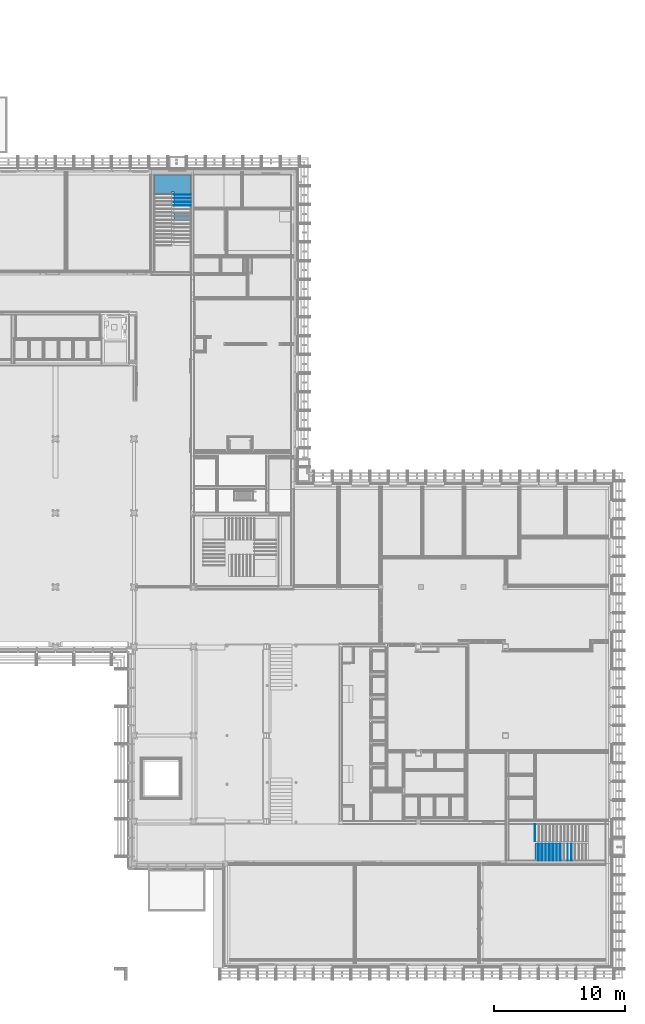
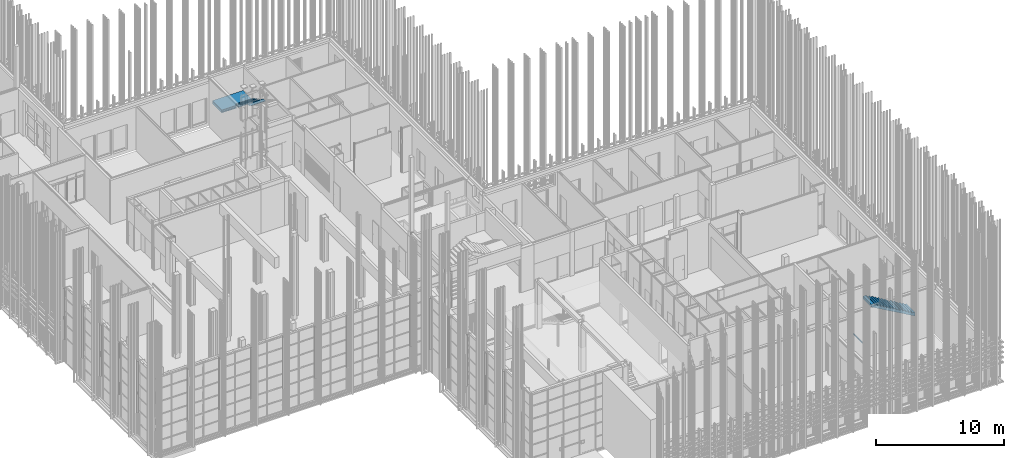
# One storey, part 86 of 260: 28 members, 2 elements without a shape of their own.
"""IFC2X3 building model written with IfcOpenShell, lengths in millimetres."""

from ifc_helpers import new_model, entity, si_unit, converted_unit, derived_unit, money_unit, direction, frame, origin_with_axes, place, context, subcontext, project, spatial, faceted_brep, material, type_object, element, aggregate, save


model = new_model("IFC2X3")

# Units and contexts
model_context = context("Model", 3, precision=0.01, world=origin_with_axes(), true_north=direction((0.0, 1.0)))
body_context = subcontext(model_context, "Body", "Model", "MODEL_VIEW")
ifc_project = project(units=[si_unit("LENGTHUNIT", "METRE", prefix="MILLI"), si_unit("AREAUNIT", "SQUARE_METRE"), si_unit("VOLUMEUNIT", "CUBIC_METRE"), converted_unit("PLANEANGLEUNIT", "DEGREE", entity("IfcPlaneAngleMeasure", 0.0174532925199), si_unit("PLANEANGLEUNIT", "RADIAN"), dimensions=[0, 0, 0, 0, 0, 0, 0]), money_unit("EUR"), converted_unit("TIMEUNIT", "Year", entity("IfcTimeMeasure", 31556926.0), si_unit("TIMEUNIT", "SECOND"), dimensions=[0, 0, 1, 0, 0, 0, 0]), si_unit("MASSUNIT", "GRAM", prefix="KILO"), si_unit("THERMODYNAMICTEMPERATUREUNIT", "DEGREE_CELSIUS"), si_unit("LUMINOUSINTENSITYUNIT", "LUMEN"), si_unit("ENERGYUNIT", "JOULE", prefix="MEGA"), derived_unit("THERMALCONDUCTANCEUNIT", [(si_unit("POWERUNIT", "WATT"), 1), (si_unit("LENGTHUNIT", "METRE"), -1), (si_unit("THERMODYNAMICTEMPERATUREUNIT", "KELVIN"), -1)]), derived_unit("SPECIFICHEATCAPACITYUNIT", [(si_unit("ENERGYUNIT", "JOULE"), 1), (si_unit("MASSUNIT", "GRAM", prefix="KILO"), -1), (si_unit("THERMODYNAMICTEMPERATUREUNIT", "KELVIN"), -1)]), derived_unit("MASSDENSITYUNIT", [(si_unit("MASSUNIT", "GRAM", prefix="KILO"), 1), (si_unit("VOLUMEUNIT", "CUBIC_METRE"), -1)])], contexts=[model_context])

# Site, building, storey
site_placement = place(None, origin_with_axes())
site = spatial("IfcSite", under=ifc_project, at=site_placement, Name="Kolde pst 67a", CompositionType="ELEMENT")
building_placement = place(site_placement, origin_with_axes())
building = spatial("IfcBuilding", under=site, at=building_placement, Name="Riigigümnaasium", CompositionType="ELEMENT")
storey_placement = place(building_placement, origin_with_axes())
storey = spatial("IfcBuildingStorey", under=building, at=storey_placement, Name="1. korrus", CompositionType="ELEMENT", Elevation=0.0)

# Stair, member
stair_1_placement = place(storey_placement, frame((79109.6162467, 9409.92811689, 0.0), z_axis=(0.0, 0.0, 1.0), x_axis=(0.9999999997, 2.4513383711e-05, 0.0)))
stair_1 = element("IfcStair", 1, at=stair_1_placement, inside=storey, Name="TREPP", ShapeType="NOTDEFINED")
ifc_material_1 = material(Name="_KANDETARIND - raudbetoon C25/30 vastavalt EK osale")
member_type_1 = type_object("IfcMemberType", Name="IfcMember", PredefinedType="USERDEFINED")
member_1_placement = place(stair_1_placement, origin_with_axes())
member_1 = element("IfcMember", 2, at=member_1_placement, type_object=member_type_1, material=ifc_material_1, Name="TT KONSTRUKTSIOON - 011", ObjectType="Stair Structure", context=body_context, shape_type="Brep", body=[
    faceted_brep([(3639.99552214, -200.048947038, 2102.45226859), (3639.9939894, -1500.04894698, 2102.45225897), (3546.66065143, -1500.04885122, 2155.32582622), (3546.66220115, -200.048831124, 2155.32582619), (3645.5417062, -200.048947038, 2099.31034483), (3645.54017346, -1500.04894698, 2099.31034483), (3645.54017346, -1500.04894698, 2349.31034483), (3639.9939894, -1500.04894698, 2349.31034483), (3609.9939894, -1500.04892538, 2349.31034483), (3609.9939894, -1500.04892538, 2507.93103448), (3329.9939894, -1500.04859102, 2507.93103448), (3329.9939894, -1500.04859102, 2666.55172414), (3049.9939894, -1500.04825666, 2666.55172414), (3049.9939894, -1500.04825666, 2825.17241379), (2769.9939894, -1500.0479223, 2825.17241379), (2769.9939894, -1500.0479223, 2983.79310345), (2489.9939894, -1500.04758795, 2983.79310345), (2489.9939894, -1500.04758795, 3142.4137931), (2209.9939894, -1500.04725359, 3142.4137931), (2209.9939894, -1500.04725359, 3301.03448276), (1929.9939894, -1500.04691923, 3301.03448276), (1929.9939894, -1500.04691923, 3459.65517241), (1649.9939894, -1500.04658487, 3459.65517241), (1649.9939894, -1500.04658487, 3618.27586207), (1369.9939894, -1500.04625052, 3618.27586207), (1369.9939894, -1500.04625052, 3776.89655172), (1089.99398941, -1500.04591616, 3776.89655172), (1089.99398941, -1500.04591616, 3935.51724138), (809.993989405, -1500.0455818, 3935.51724138), (809.993989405, -1500.0455818, 4094.13793103), (529.993989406, -1500.04524744, 4094.13793103), (529.993989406, -1500.04524744, 4252.75862069), (249.993989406, -1500.04491309, 4252.75862069), (249.993989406, -1500.04491309, 4411.37931034), (-30.0060105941, -1500.04457852, 4411.37931034), (-30.0060105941, -1500.04457852, 4570.0), (-280.006010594, -1500.04427999, 4570.0), (-280.006010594, -1500.04428211, 4323.14191987), (-186.672677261, -1500.04439357, 4270.26835664), (-93.3393439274, -1500.04450502, 4217.39479343), (-0.00601059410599, -1500.04461647, 4164.52123022), (93.3273227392, -1500.04472792, 4111.64766702), (186.660656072, -1500.04483937, 4058.7741038), (279.993989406, -1500.04495083, 4005.90054058), (373.327322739, -1500.04506228, 3953.02697737), (466.660656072, -1500.04517373, 3900.15341415), (559.993989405, -1500.04528518, 3847.27985093), (653.327322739, -1500.04539664, 3794.40628771), (746.660656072, -1500.04550809, 3741.53272449), (839.993989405, -1500.04561954, 3688.65916127), (933.327322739, -1500.04573099, 3635.78559806), (1026.66065607, -1500.04584245, 3582.91203484), (1119.99398941, -1500.0459539, 3530.03847162), (1213.32732274, -1500.04606535, 3477.1649084), (1306.66065607, -1500.0461768, 3424.29134518), (1399.9939894, -1500.04628826, 3371.41778196), (1493.32732274, -1500.04639971, 3318.54421874), (1586.66065607, -1500.04651116, 3265.67065553), (1679.9939894, -1500.04662261, 3212.79709231), (1773.32732274, -1500.04673407, 3159.92352909), (1866.66065607, -1500.04684552, 3107.04996587), (1959.9939894, -1500.04695697, 3054.17640265), (2053.32732274, -1500.04706842, 3001.30283943), (2146.66065607, -1500.04717988, 2948.42927622), (2239.9939894, -1500.04729133, 2895.555713), (2333.32732274, -1500.04740278, 2842.68214978), (2426.66065607, -1500.04751423, 2789.80858656), (2519.9939894, -1500.04762569, 2736.93502334), (2613.32732274, -1500.04773714, 2684.06146012), (2706.66065607, -1500.04784859, 2631.1878969), (2799.9939894, -1500.04796004, 2578.31433368), (2893.32732274, -1500.0480715, 2525.44077039), (2986.66065607, -1500.04818295, 2472.56720711), (3079.9939894, -1500.0482944, 2419.69364377), (3173.32732274, -1500.04840585, 2366.82008011), (3266.66065607, -1500.04851731, 2313.94651637), (3359.9939894, -1500.04862876, 2261.07295253), (3453.32732042, -1500.04874145, 2208.19938947), (3453.32887014, -200.048721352, 2208.19938944), (3609.99554151, -200.048920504, 2349.31034483), (3639.99552214, -200.048947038, 2349.31034483), (3645.5417062, -200.048947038, 2349.31034483), (3359.99553913, -200.04861158, 2261.07295256), (3266.66220659, -200.04851401, 2313.94651614), (3173.32887405, -200.048402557, 2366.82007966), (3079.99554151, -200.048291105, 2419.6936431), (2986.66220817, -200.048180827, 2472.56720665), (2893.32887484, -200.048069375, 2525.44077012), (2799.99554151, -200.047957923, 2578.31433355), (2706.66220817, -200.04784647, 2631.18789685), (2613.32887484, -200.047735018, 2684.0614601), (2519.99554151, -200.047623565, 2736.93502334), (2426.66220817, -200.047512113, 2789.80858656), (2333.32887484, -200.04740066, 2842.68214978), (2239.99554151, -200.047289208, 2895.555713), (2146.66220817, -200.047177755, 2948.42927622), (2053.32887484, -200.047066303, 3001.30283943), (1959.99554151, -200.04695485, 3054.17640265), (1866.66220817, -200.046843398, 3107.04996587), (1773.32887484, -200.046731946, 3159.92352909), (1679.99554151, -200.046611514, 3212.79709231), (1586.66220817, -200.046500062, 3265.67065553), (1493.32887484, -200.04638861, 3318.54421874), (1399.99554151, -200.046277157, 3371.41778196), (1306.66220817, -200.046167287, 3424.29134518), (1213.32887484, -200.046055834, 3477.1649084), (1119.99554151, -200.045944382, 3530.03847162), (1026.66220817, -200.045834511, 3582.91203484), (933.328874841, -200.045723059, 3635.78559806), (839.995541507, -200.045611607, 3688.65916127), (746.662208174, -200.045501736, 3741.53272449), (653.328874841, -200.045390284, 3794.40628771), (559.995541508, -200.045278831, 3847.27985093), (466.662208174, -200.045168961, 3900.15341415), (373.328874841, -200.045057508, 3953.02697736), (279.995541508, -200.044946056, 4005.90054058), (186.662208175, -200.044835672, 4058.7741038), (93.3288748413, -200.044724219, 4111.64766702), (-0.00445849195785, -200.044612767, 4164.52123024), (-93.3377917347, -200.044502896, 4217.39479343), (-186.671124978, -200.044391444, 4270.26835664), (-280.00445822, -200.044279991, 4323.14191985), (-280.00445822, -200.044279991, 4570.0), (-30.0044584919, -200.044578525, 4570.0), (-30.0044584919, -200.044578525, 4411.37931034), (249.995541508, -200.044912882, 4411.37931034), (249.995541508, -200.044912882, 4252.75862069), (529.995541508, -200.045247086, 4252.75862069), (529.995541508, -200.045247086, 4094.13793103), (809.995541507, -200.04558134, 4094.13793103), (809.995541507, -200.04558134, 3935.51724138), (1089.99554151, -200.045915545, 3935.51724138), (1089.99554151, -200.045915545, 3776.89655172), (1369.99554151, -200.046249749, 3776.89655172), (1369.99554151, -200.046249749, 3618.27586207), (1649.99554151, -200.046583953, 3618.27586207), (1649.99554151, -200.046583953, 3459.65517241), (1929.99554151, -200.046918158, 3459.65517241), (1929.99554151, -200.046918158, 3301.03448276), (2209.99554151, -200.047254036, 3301.03448276), (2209.99554151, -200.047254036, 3142.4137931), (2489.99554151, -200.04758824, 3142.4137931), (2489.99554151, -200.04758824, 2983.79310345), (2769.99554151, -200.047922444, 2983.79310345), (2769.99554151, -200.047922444, 2825.17241379), (3049.99554151, -200.048256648, 2825.17241379), (3049.99554151, -200.048256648, 2666.55172414), (3329.99554151, -200.048590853, 2666.55172414), (3329.99554151, -200.048590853, 2507.93103448), (3609.99554151, -200.048920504, 2507.93103448)], [[[0, 1, 2, 3]], [[1, 0, 4, 5]], [[2, 1, 5, 6, 7, 8, 9, 10, 11, 12, 13, 14, 15, 16, 17, 18, 19, 20, 21, 22, 23, 24, 25, 26, 27, 28, 29, 30, 31, 32, 33, 34, 35, 36, 37, 38, 39, 40, 41, 42, 43, 44, 45, 46, 47, 48, 49, 50, 51, 52, 53, 54, 55, 56, 57, 58, 59, 60, 61, 62, 63, 64, 65, 66, 67, 68, 69, 70, 71, 72, 73, 74, 75, 76, 77]], [[77, 78, 3, 2]], [[79, 80, 81, 4, 0, 3, 78, 82, 83, 84, 85, 86, 87, 88, 89, 90, 91, 92, 93, 94, 95, 96, 97, 98, 99, 100, 101, 102, 103, 104, 105, 106, 107, 108, 109, 110, 111, 112, 113, 114, 115, 116, 117, 118, 119, 120, 121, 122, 123, 124, 125, 126, 127, 128, 129, 130, 131, 132, 133, 134, 135, 136, 137, 138, 139, 140, 141, 142, 143, 144, 145, 146, 147, 148, 149]], [[6, 5, 4, 81]], [[8, 7, 6, 81, 80, 79]], [[79, 149, 9, 8]], [[149, 148, 10, 9]], [[148, 147, 11, 10]], [[147, 146, 12, 11]], [[146, 145, 13, 12]], [[145, 144, 14, 13]], [[144, 143, 15, 14]], [[143, 142, 16, 15]], [[142, 141, 17, 16]], [[141, 140, 18, 17]], [[140, 139, 19, 18]], [[139, 138, 20, 19]], [[138, 137, 21, 20]], [[137, 136, 22, 21]], [[136, 135, 23, 22]], [[135, 134, 24, 23]], [[134, 133, 25, 24]], [[133, 132, 26, 25]], [[132, 131, 27, 26]], [[131, 130, 28, 27]], [[130, 129, 29, 28]], [[129, 128, 30, 29]], [[128, 127, 31, 30]], [[127, 126, 32, 31]], [[126, 125, 33, 32]], [[125, 124, 34, 33]], [[124, 123, 35, 34]], [[122, 36, 35, 123]], [[37, 36, 122, 121]], [[37, 121, 120, 38]], [[38, 120, 119, 39]], [[39, 119, 118, 40]], [[40, 118, 117, 41]], [[41, 117, 116, 42]], [[42, 116, 115, 43]], [[43, 115, 114, 44]], [[44, 114, 113, 45]], [[45, 113, 112, 46]], [[46, 112, 111, 47]], [[47, 111, 110, 48]], [[48, 110, 109, 49]], [[49, 109, 108, 50]], [[50, 108, 107, 51]], [[51, 107, 106, 52]], [[52, 106, 105, 53]], [[53, 105, 104, 54]], [[54, 104, 103, 55]], [[55, 103, 102, 56]], [[56, 102, 101, 57]], [[57, 101, 100, 58]], [[58, 100, 99, 59]], [[59, 99, 98, 60]], [[60, 98, 97, 61]], [[61, 97, 96, 62]], [[62, 96, 95, 63]], [[63, 95, 94, 64]], [[64, 94, 93, 65]], [[65, 93, 92, 66]], [[66, 92, 91, 67]], [[67, 91, 90, 68]], [[68, 90, 89, 69]], [[69, 89, 88, 70]], [[70, 88, 87, 71]], [[71, 87, 86, 72]], [[72, 86, 85, 73]], [[73, 85, 84, 74]], [[74, 84, 83, 75]], [[75, 83, 82, 76]], [[76, 82, 78, 77]]]),
])

stair_2_placement = place(storey_placement, frame((51080.0647046, 55109.9959971, 0.0), z_axis=(0.0, 0.0, 1.0), x_axis=(-2.45133837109e-05, 0.9999999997, 0.0)))
stair_2 = element("IfcStair", 3, at=stair_2_placement, inside=storey, Name="TREPP", ShapeType="NOTDEFINED")
member_2_placement = place(stair_2_placement, origin_with_axes())
member_2 = element("IfcMember", 4, at=member_2_placement, type_object=member_type_1, material=ifc_material_1, Name="TM KONSTRUKTSIOON - 006", ObjectType="Stair Structure", context=body_context, shape_type="Brep", body=[
    faceted_brep([(3669.99962765, -20.0496964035, 2349.31034483), (3839.99996666, -20.053863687, 2349.31034483), (3839.99555437, -200.049223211, 2349.31034483), (3645.54169706, -200.044456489, 2349.31034483), (3645.54016422, -1500.04894699, 2349.31034483), (5119.96741247, -1500.05072828, 2349.31034483), (5120.02938471, 1279.93111331, 2349.31034483), (3670.01715055, 1279.95063188, 2349.31034483), (3669.99962765, -20.0496964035, 2190.68965517), (3639.99955388, -20.0489610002, 2190.68965517), (3639.99955388, -20.0489610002, 2099.31034483), (3839.99996666, -20.053863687, 2099.31034483), (3839.99555437, -200.049223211, 2099.31034483), (3645.54169706, -200.044456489, 2099.31034483), (3645.54016422, -1500.04894699, 2099.31034483), (5119.96741247, -1500.05072828, 2099.31034483), (5120.02938471, 1279.93111331, 2099.31034483), (3640.01721975, 1279.95103888, 2099.31034483), (3640.01721975, 1279.95103574, 2190.68965517), (3670.01715055, 1279.95063188, 2190.68965517)], [[[0, 1, 2, 3, 4, 5, 6, 7]], [[1, 0, 8, 9, 10, 11]], [[2, 1, 11, 12]], [[3, 2, 12, 13]], [[3, 13, 14, 4]], [[15, 5, 4, 14]], [[15, 16, 6, 5]], [[17, 18, 19, 7, 6, 16]], [[8, 0, 7, 19]], [[9, 8, 19, 18]], [[10, 9, 18, 17]], [[11, 10, 17, 16, 15, 14, 13, 12]]]),
])

# Member
ifc_material_2 = material(Name="_VIIMISTLUSKIHT - viimistlus vastavalt SA osale")
member_type_2 = type_object("IfcMemberType", Name="IfcMember", PredefinedType="USERDEFINED")
member_3_placement = place(stair_1_placement, frame((-279.991256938, 650.003766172, 128.620689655), z_axis=(0.0, 0.0, 1.0), x_axis=(1.34508253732e-05, 0.99999999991, 0.0)))
member_3 = element("IfcMember", 5, at=member_3_placement, type_object=member_type_2, material=ifc_material_2, Name="TV TÕUS - 146", ObjectType="Stair Riser", context=body_context, shape_type="Brep", body=[
    faceted_brep([(630.0, 0.0, 0.0), (-670.0, 0.0, 0.0), (-670.0, -30.0, 0.0), (630.0, -30.0, 0.0), (630.0, 0.0, -128.620689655), (-670.0, 0.0, -128.620689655), (-670.0, -30.0, -128.620689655), (630.0, -30.0, -128.620689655)], [[[0, 1, 2, 3]], [[4, 5, 1, 0]], [[1, 5, 6, 2]], [[3, 2, 6, 7]], [[0, 3, 7, 4]], [[7, 6, 5, 4]]]),
])

member_4_placement = place(stair_1_placement, frame((2519.99476559, -850.047623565, 3142.4137931), z_axis=(0.0, 0.0, 1.0), x_axis=(-1.19413351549e-06, -0.999999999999, 0.0)))
member_4 = element("IfcMember", 6, at=member_4_placement, type_object=member_type_2, material=ifc_material_2, Name="TV TÕUS - 164", ObjectType="Stair Riser", context=body_context, shape_type="Brep", body=[
    faceted_brep([(650.0, 0.0, 0.0), (-649.999999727, 0.0, 0.0), (-649.999999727, -30.0, 0.0), (650.0, -30.0, 0.0), (650.0, 0.0, -128.620689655), (-649.999999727, 0.0, -128.620689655), (-649.999999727, -30.0, -128.620689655), (650.0, -30.0, -128.620689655)], [[[0, 1, 2, 3]], [[4, 5, 1, 0]], [[1, 5, 6, 2]], [[3, 2, 6, 7]], [[0, 3, 7, 4]], [[7, 6, 5, 4]]]),
])

member_5_placement = place(stair_1_placement, frame((2239.99476559, -850.047289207, 3301.03448276), z_axis=(0.0, 0.0, 1.0), x_axis=(-1.19413351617e-06, -0.999999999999, 0.0)))
member_5 = element("IfcMember", 7, at=member_5_placement, type_object=member_type_2, material=ifc_material_2, Name="TV TÕUS - 165", ObjectType="Stair Riser", context=body_context, shape_type="Brep", body=[
    faceted_brep([(650.0, 0.0, 0.0), (-649.999999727, 0.0, 0.0), (-649.999999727, -30.0, 0.0), (650.0, -30.0, 0.0), (650.0, 0.0, -128.620689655), (-649.999999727, 0.0, -128.620689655), (-649.999999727, -30.0, -128.620689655), (650.0, -30.0, -128.620689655)], [[[0, 1, 2, 3]], [[4, 5, 1, 0]], [[1, 5, 6, 2]], [[3, 2, 6, 7]], [[0, 3, 7, 4]], [[7, 6, 5, 4]]]),
])

member_6_placement = place(stair_1_placement, frame((1679.99476559, -850.046620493, 3618.27586207), z_axis=(0.0, 0.0, 1.0), x_axis=(-1.19413351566e-06, -0.999999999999, 0.0)))
member_6 = element("IfcMember", 8, at=member_6_placement, type_object=member_type_2, material=ifc_material_2, Name="TV TÕUS - 167", ObjectType="Stair Riser", context=body_context, shape_type="Brep", body=[
    faceted_brep([(650.0, 0.0, 0.0), (-649.999999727, 0.0, 0.0), (-649.999999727, -30.0, 0.0), (650.0, -30.0, 0.0), (650.0, 0.0, -128.620689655), (-649.999999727, 0.0, -128.620689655), (-649.999999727, -30.0, -128.620689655), (650.0, -30.0, -128.620689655)], [[[0, 1, 2, 3]], [[4, 5, 1, 0]], [[1, 5, 6, 2]], [[3, 2, 6, 7]], [[0, 3, 7, 4]], [[7, 6, 5, 4]]]),
])

member_7_placement = place(stair_1_placement, frame((1399.99476559, -850.046286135, 3776.89655172), z_axis=(0.0, 0.0, 1.0), x_axis=(-1.19413351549e-06, -0.999999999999, 0.0)))
member_7 = element("IfcMember", 9, at=member_7_placement, type_object=member_type_2, material=ifc_material_2, Name="TV TÕUS - 168", ObjectType="Stair Riser", context=body_context, shape_type="Brep", body=[
    faceted_brep([(650.0, 0.0, 0.0), (-649.999999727, 0.0, 0.0), (-649.999999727, -30.0, 0.0), (650.0, -30.0, 0.0), (650.0, 0.0, -128.620689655), (-649.999999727, 0.0, -128.620689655), (-649.999999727, -30.0, -128.620689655), (650.0, -30.0, -128.620689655)], [[[0, 1, 2, 3]], [[4, 5, 1, 0]], [[1, 5, 6, 2]], [[3, 2, 6, 7]], [[0, 3, 7, 4]], [[7, 6, 5, 4]]]),
])

member_8_placement = place(stair_1_placement, frame((1119.99476559, -850.045951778, 3935.51724138), z_axis=(0.0, 0.0, 1.0), x_axis=(-1.19413351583e-06, -0.999999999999, 0.0)))
member_8 = element("IfcMember", 10, at=member_8_placement, type_object=member_type_2, material=ifc_material_2, Name="TV TÕUS - 169", ObjectType="Stair Riser", context=body_context, shape_type="Brep", body=[
    faceted_brep([(650.0, 0.0, 0.0), (-649.999999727, 0.0, 0.0), (-649.999999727, -30.0, 0.0), (650.0, -30.0, 0.0), (650.0, 0.0, -128.620689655), (-649.999999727, 0.0, -128.620689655), (-649.999999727, -30.0, -128.620689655), (650.0, -30.0, -128.620689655)], [[[0, 1, 2, 3]], [[4, 5, 1, 0]], [[1, 5, 6, 2]], [[3, 2, 6, 7]], [[0, 3, 7, 4]], [[7, 6, 5, 4]]]),
])

member_9_placement = place(stair_1_placement, frame((839.994765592, -850.04561742, 4094.13793103), z_axis=(0.0, 0.0, 1.0), x_axis=(-1.19413351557e-06, -0.999999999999, 0.0)))
member_9 = element("IfcMember", 11, at=member_9_placement, type_object=member_type_2, material=ifc_material_2, Name="TV TÕUS - 170", ObjectType="Stair Riser", context=body_context, shape_type="Brep", body=[
    faceted_brep([(650.0, 0.0, 0.0), (-649.999999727, 0.0, 0.0), (-649.999999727, -30.0, 0.0), (650.0, -30.0, 0.0), (650.0, 0.0, -128.620689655), (-649.999999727, 0.0, -128.620689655), (-649.999999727, -30.0, -128.620689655), (650.0, -30.0, -128.620689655)], [[[0, 1, 2, 3]], [[4, 5, 1, 0]], [[1, 5, 6, 2]], [[3, 2, 6, 7]], [[0, 3, 7, 4]], [[7, 6, 5, 4]]]),
])

member_10_placement = place(stair_1_placement, frame((559.994765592, -850.045283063, 4252.75862069), z_axis=(0.0, 0.0, 1.0), x_axis=(-1.19413351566e-06, -0.999999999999, 0.0)))
member_10 = element("IfcMember", 12, at=member_10_placement, type_object=member_type_2, material=ifc_material_2, Name="TV TÕUS - 171", ObjectType="Stair Riser", context=body_context, shape_type="Brep", body=[
    faceted_brep([(650.0, 0.0, 0.0), (-649.999999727, 0.0, 0.0), (-649.999999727, -30.0, 0.0), (650.0, -30.0, 0.0), (650.0, 0.0, -128.620689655), (-649.999999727, 0.0, -128.620689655), (-649.999999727, -30.0, -128.620689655), (650.0, -30.0, -128.620689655)], [[[0, 1, 2, 3]], [[4, 5, 1, 0]], [[1, 5, 6, 2]], [[3, 2, 6, 7]], [[0, 3, 7, 4]], [[7, 6, 5, 4]]]),
])

member_11_placement = place(stair_1_placement, frame((279.994765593, -850.044948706, 4411.37931034), z_axis=(0.0, 0.0, 1.0), x_axis=(-1.19413351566e-06, -0.999999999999, 0.0)))
member_11 = element("IfcMember", 13, at=member_11_placement, type_object=member_type_2, material=ifc_material_2, Name="TV TÕUS - 172", ObjectType="Stair Riser", context=body_context, shape_type="Brep", body=[
    faceted_brep([(650.0, 0.0, 0.0), (-649.999999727, 0.0, 0.0), (-649.999999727, -30.0, 0.0), (650.0, -30.0, 0.0), (650.0, 0.0, -128.620689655), (-649.999999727, 0.0, -128.620689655), (-649.999999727, -30.0, -128.620689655), (650.0, -30.0, -128.620689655)], [[[0, 1, 2, 3]], [[4, 5, 1, 0]], [[1, 5, 6, 2]], [[3, 2, 6, 7]], [[0, 3, 7, 4]], [[7, 6, 5, 4]]]),
])

member_12_placement = place(stair_1_placement, frame((-0.00523440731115, -850.044614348, 4570.0), z_axis=(0.0, 0.0, 1.0), x_axis=(-1.19413351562e-06, -0.999999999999, 0.0)))
member_12 = element("IfcMember", 14, at=member_12_placement, type_object=member_type_2, material=ifc_material_2, Name="TV TÕUS - 173", ObjectType="Stair Riser", context=body_context, shape_type="Brep", body=[
    faceted_brep([(650.0, 0.0, 0.0), (-649.999999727, 0.0, 0.0), (-649.999999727, -30.0, 0.0), (650.0, -30.0, 0.0), (650.0, 0.0, -128.620689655), (-649.999999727, 0.0, -128.620689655), (-649.999999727, -30.0, -128.620689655), (650.0, -30.0, -128.620689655)], [[[0, 1, 2, 3]], [[4, 5, 1, 0]], [[1, 5, 6, 2]], [[3, 2, 6, 7]], [[0, 3, 7, 4]], [[7, 6, 5, 4]]]),
])

member_13_placement = place(stair_2_placement, frame((3639.99476559, -850.048960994, 2507.93103448), z_axis=(0.0, 0.0, 1.0), x_axis=(-1.19413351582e-06, -0.999999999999, 0.0)))
member_13 = element("IfcMember", 15, at=member_13_placement, type_object=member_type_2, material=ifc_material_2, Name="TV TÕUS - 160", ObjectType="Stair Riser", context=body_context, shape_type="Brep", body=[
    faceted_brep([(650.0, -30.0, 0.0), (650.0, 0.0, 0.0), (-649.999999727, 0.0, 0.0), (-649.999999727, -30.0, 0.0), (650.0, 0.0, -128.620689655), (650.0, -30.0, -128.620689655), (-649.999999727, 0.0, -128.620689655), (-649.999999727, -30.0, -128.620689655)], [[[0, 1, 2, 3]], [[4, 1, 0, 5]], [[1, 4, 6, 2]], [[3, 2, 6, 7]], [[5, 0, 3, 7]], [[4, 5, 7, 6]]]),
])

member_14_placement = place(stair_2_placement, frame((3359.99476559, -850.048626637, 2666.55172414), z_axis=(0.0, 0.0, 1.0), x_axis=(-1.19413351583e-06, -0.999999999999, 0.0)))
member_14 = element("IfcMember", 16, at=member_14_placement, type_object=member_type_2, material=ifc_material_2, Name="TV TÕUS - 161", ObjectType="Stair Riser", context=body_context, shape_type="Brep", body=[
    faceted_brep([(650.0, 0.0, 0.0), (-649.999999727, 0.0, 0.0), (-649.999999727, -30.0, 0.0), (650.0, -30.0, 0.0), (650.0, 0.0, -128.620689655), (-649.999999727, 0.0, -128.620689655), (-649.999999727, -30.0, -128.620689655), (650.0, -30.0, -128.620689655)], [[[0, 1, 2, 3]], [[4, 5, 1, 0]], [[1, 5, 6, 2]], [[3, 2, 6, 7]], [[0, 3, 7, 4]], [[7, 6, 5, 4]]]),
])

member_15_placement = place(stair_2_placement, frame((3079.99476559, -850.048292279, 2825.17241379), z_axis=(0.0, 0.0, 1.0), x_axis=(-1.19413351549e-06, -0.999999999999, 0.0)))
member_15 = element("IfcMember", 17, at=member_15_placement, type_object=member_type_2, material=ifc_material_2, Name="TV TÕUS - 162", ObjectType="Stair Riser", context=body_context, shape_type="Brep", body=[
    faceted_brep([(650.0, 0.0, 0.0), (-649.999999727, 0.0, 0.0), (-649.999999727, -30.0, 0.0), (650.0, -30.0, 0.0), (650.0, 0.0, -128.620689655), (-649.999999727, 0.0, -128.620689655), (-649.999999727, -30.0, -128.620689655), (650.0, -30.0, -128.620689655)], [[[0, 1, 2, 3]], [[4, 5, 1, 0]], [[1, 5, 6, 2]], [[3, 2, 6, 7]], [[0, 3, 7, 4]], [[7, 6, 5, 4]]]),
])

member_16_placement = place(stair_2_placement, frame((2799.99476559, -850.047957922, 2983.79310345), z_axis=(0.0, 0.0, 1.0), x_axis=(-1.19413351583e-06, -0.999999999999, 0.0)))
member_16 = element("IfcMember", 18, at=member_16_placement, type_object=member_type_2, material=ifc_material_2, Name="TV TÕUS - 163", ObjectType="Stair Riser", context=body_context, shape_type="Brep", body=[
    faceted_brep([(650.0, 0.0, 0.0), (-649.999999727, 0.0, 0.0), (-649.999999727, -30.0, 0.0), (650.0, -30.0, 0.0), (650.0, 0.0, -128.620689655), (-649.999999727, 0.0, -128.620689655), (-649.999999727, -30.0, -128.620689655), (650.0, -30.0, -128.620689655)], [[[0, 1, 2, 3]], [[4, 5, 1, 0]], [[1, 5, 6, 2]], [[3, 2, 6, 7]], [[0, 3, 7, 4]], [[7, 6, 5, 4]]]),
])

member_type_3 = type_object("IfcMemberType", Name="IfcMember", PredefinedType="USERDEFINED")
member_17_placement = place(stair_1_placement, frame((1679.99476559, -850.046620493, 3648.27586207), z_axis=(0.0, 0.0, 1.0), x_axis=(-1.19413351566e-06, -0.999999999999, 0.0)))
member_17 = element("IfcMember", 19, at=member_17_placement, type_object=member_type_3, material=ifc_material_2, Name="TV ASTE - 167", ObjectType="Stair Tread", context=body_context, shape_type="Brep", body=[
    faceted_brep([(-650.0, 0.0, -30.0), (-650.0, 0.0, 0.0), (650.0, 0.0, 0.0), (650.0, 0.0, -30.0), (-650.0, -310.0, -30.0), (-650.0, -310.0, 0.0), (650.0, -310.0, 0.0), (650.0, -310.0, -30.0)], [[[0, 1, 2, 3]], [[4, 5, 1, 0]], [[1, 5, 6, 2]], [[3, 2, 6, 7]], [[0, 3, 7, 4]], [[7, 6, 5, 4]]]),
])

member_18_placement = place(stair_1_placement, frame((1399.99476559, -850.046286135, 3806.89655172), z_axis=(0.0, 0.0, 1.0), x_axis=(-1.19413351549e-06, -0.999999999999, 0.0)))
member_18 = element("IfcMember", 20, at=member_18_placement, type_object=member_type_3, material=ifc_material_2, Name="TV ASTE - 168", ObjectType="Stair Tread", context=body_context, shape_type="Brep", body=[
    faceted_brep([(-650.0, 0.0, -30.0), (-650.0, 0.0, 0.0), (650.0, 0.0, 0.0), (650.0, 0.0, -30.0), (-650.0, -310.0, -30.0), (-650.0, -310.0, 0.0), (650.0, -310.0, 0.0), (650.0, -310.0, -30.0)], [[[0, 1, 2, 3]], [[4, 5, 1, 0]], [[1, 5, 6, 2]], [[3, 2, 6, 7]], [[0, 3, 7, 4]], [[7, 6, 5, 4]]]),
])

member_19_placement = place(stair_1_placement, frame((1119.99476559, -850.045951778, 3965.51724138), z_axis=(0.0, 0.0, 1.0), x_axis=(-1.19413351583e-06, -0.999999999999, 0.0)))
member_19 = element("IfcMember", 21, at=member_19_placement, type_object=member_type_3, material=ifc_material_2, Name="TV ASTE - 169", ObjectType="Stair Tread", context=body_context, shape_type="Brep", body=[
    faceted_brep([(-650.0, 0.0, -30.0), (-650.0, 0.0, 0.0), (650.0, 0.0, 0.0), (650.0, 0.0, -30.0), (-650.0, -310.0, -30.0), (-650.0, -310.0, 0.0), (650.0, -310.0, 0.0), (650.0, -310.0, -30.0)], [[[0, 1, 2, 3]], [[4, 5, 1, 0]], [[1, 5, 6, 2]], [[3, 2, 6, 7]], [[0, 3, 7, 4]], [[7, 6, 5, 4]]]),
])

member_20_placement = place(stair_1_placement, frame((839.994765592, -850.04561742, 4124.13793103), z_axis=(0.0, 0.0, 1.0), x_axis=(-1.19413351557e-06, -0.999999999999, 0.0)))
member_20 = element("IfcMember", 22, at=member_20_placement, type_object=member_type_3, material=ifc_material_2, Name="TV ASTE - 170", ObjectType="Stair Tread", context=body_context, shape_type="Brep", body=[
    faceted_brep([(-650.0, 0.0, -30.0), (-650.0, 0.0, 0.0), (650.0, 0.0, 0.0), (650.0, 0.0, -30.0), (-650.0, -310.0, -30.0), (-650.0, -310.0, 0.0), (650.0, -310.0, 0.0), (650.0, -310.0, -30.0)], [[[0, 1, 2, 3]], [[4, 5, 1, 0]], [[1, 5, 6, 2]], [[3, 2, 6, 7]], [[0, 3, 7, 4]], [[7, 6, 5, 4]]]),
])

member_21_placement = place(stair_1_placement, frame((559.994765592, -850.045283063, 4282.75862069), z_axis=(0.0, 0.0, 1.0), x_axis=(-1.19413351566e-06, -0.999999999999, 0.0)))
member_21 = element("IfcMember", 23, at=member_21_placement, type_object=member_type_3, material=ifc_material_2, Name="TV ASTE - 171", ObjectType="Stair Tread", context=body_context, shape_type="Brep", body=[
    faceted_brep([(-650.0, -2.71441535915e-07, -30.0), (-650.0, -2.71441535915e-07, 0.0), (650.0, 0.0, 0.0), (650.0, 0.0, -30.0), (-650.0, -167.140951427, -30.0), (-650.0, -167.140951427, 0.0), (-650.0, -310.000002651, 0.0), (650.0, -310.0, 0.0), (650.0, -310.0, -30.0), (-650.0, -310.000002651, -30.0)], [[[0, 1, 2, 3]], [[4, 5, 1, 0]], [[1, 5, 6, 7, 2]], [[3, 2, 7, 8]], [[0, 3, 8, 9, 4]], [[9, 6, 5, 4]], [[8, 7, 6, 9]]]),
])

member_22_placement = place(stair_1_placement, frame((279.994765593, -850.044948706, 4441.37931034), z_axis=(0.0, 0.0, 1.0), x_axis=(-1.19413351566e-06, -0.999999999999, 0.0)))
member_22 = element("IfcMember", 24, at=member_22_placement, type_object=member_type_3, material=ifc_material_2, Name="TV ASTE - 172", ObjectType="Stair Tread", context=body_context, shape_type="Brep", body=[
    faceted_brep([(-650.0, 0.0, -30.0), (-650.0, 0.0, 0.0), (650.0, 0.0, 0.0), (650.0, 0.0, -30.0), (-650.0, -310.0, -30.0), (-650.0, -310.0, 0.0), (650.0, -310.0, 0.0), (650.0, -310.0, -30.0)], [[[0, 1, 2, 3]], [[4, 5, 1, 0]], [[1, 5, 6, 2]], [[3, 2, 6, 7]], [[0, 3, 7, 4]], [[7, 6, 5, 4]]]),
])

aggregate(stair_1, [member_1, member_3, member_4, member_5, member_6, member_7, member_8, member_9, member_10, member_11, member_12, member_17, member_18, member_19, member_20, member_21, member_22])

member_23_placement = place(stair_2_placement, frame((3640.00874271, 649.951038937, 2379.31034483), z_axis=(0.0, 0.0, 1.0), x_axis=(1.34508253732e-05, 0.99999999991, 0.0)))
member_23 = element("IfcMember", 25, at=member_23_placement, type_object=member_type_3, material=ifc_material_2, Name="SL TREAD - 006", ObjectType="Stair Tread", context=body_context, shape_type="Brep", body=[
    faceted_brep([(-2150.00034803, 29.9858340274, 0.0), (-2150.00034803, 29.9858340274, -30.0), (-2149.98186036, -1479.98758893, -30.0), (-2149.98186036, -1479.98758893, 0.0), (-850.000348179, 30.0017873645, 0.0), (-850.000348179, 30.0017873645, -30.0), (630.0, -3.02383540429e-06, -30.0), (629.999981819, -1480.01216812, -30.0), (-849.997572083, -199.998244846, -30.0), (-670.001774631, -199.999841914, -30.0), (-670.00000007, 0.000158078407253, -30.0), (629.999981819, -1480.01216812, 0.0), (630.0, -3.02383540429e-06, 0.0), (-670.00000007, 0.000158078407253, 0.0), (-670.001774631, -199.999841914, 0.0), (-849.997572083, -199.998244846, 0.0)], [[[0, 1, 2, 3]], [[4, 5, 1, 0]], [[6, 7, 2, 1, 5, 8, 9, 10]], [[3, 2, 7, 11]], [[4, 0, 3, 11, 12, 13, 14, 15]], [[15, 8, 5, 4]], [[11, 7, 6, 12]], [[14, 9, 8, 15]], [[13, 10, 9, 14]], [[12, 6, 10, 13]]]),
])

member_24_placement = place(stair_2_placement, frame((3639.99476559, -850.048960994, 2537.93103448), z_axis=(0.0, 0.0, 1.0), x_axis=(-1.19413351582e-06, -0.999999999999, 0.0)))
member_24 = element("IfcMember", 26, at=member_24_placement, type_object=member_type_3, material=ifc_material_2, Name="TV ASTE - 160", ObjectType="Stair Tread", context=body_context, shape_type="Brep", body=[
    faceted_brep([(650.0, -310.0, -30.0), (650.0, 5.96047300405e-06, -30.0), (650.0, 5.96047300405e-06, 0.0), (650.0, -310.0, 0.0), (-650.0, 5.96046589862e-06, -30.0), (-650.0, -310.0, -30.0), (-650.0, 5.96046589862e-06, 0.0), (-650.0, -310.0, 0.0)], [[[0, 1, 2, 3]], [[4, 1, 0, 5]], [[1, 4, 6, 2]], [[3, 2, 6, 7]], [[5, 0, 3, 7]], [[4, 5, 7, 6]]]),
])

member_25_placement = place(stair_2_placement, frame((3359.99476559, -850.048626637, 2696.55172414), z_axis=(0.0, 0.0, 1.0), x_axis=(-1.19413351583e-06, -0.999999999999, 0.0)))
member_25 = element("IfcMember", 27, at=member_25_placement, type_object=member_type_3, material=ifc_material_2, Name="TV ASTE - 161", ObjectType="Stair Tread", context=body_context, shape_type="Brep", body=[
    faceted_brep([(-650.0, 0.0, -30.0), (-650.0, 0.0, 0.0), (650.0, 0.0, 0.0), (650.0, 0.0, -30.0), (-650.0, -310.0, -30.0), (-650.0, -310.0, 0.0), (650.0, -310.0, 0.0), (650.0, -310.0, -30.0)], [[[0, 1, 2, 3]], [[4, 5, 1, 0]], [[1, 5, 6, 2]], [[3, 2, 6, 7]], [[0, 3, 7, 4]], [[7, 6, 5, 4]]]),
])

member_26_placement = place(stair_2_placement, frame((3079.99476559, -850.048292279, 2855.17241379), z_axis=(0.0, 0.0, 1.0), x_axis=(-1.19413351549e-06, -0.999999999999, 0.0)))
member_26 = element("IfcMember", 28, at=member_26_placement, type_object=member_type_3, material=ifc_material_2, Name="TV ASTE - 162", ObjectType="Stair Tread", context=body_context, shape_type="Brep", body=[
    faceted_brep([(-650.0, 0.0, -30.0), (-650.0, 0.0, 0.0), (650.0, 0.0, 0.0), (650.0, 0.0, -30.0), (-650.0, -310.0, -30.0), (-650.0, -310.0, 0.0), (650.0, -310.0, 0.0), (650.0, -310.0, -30.0)], [[[0, 1, 2, 3]], [[4, 5, 1, 0]], [[1, 5, 6, 2]], [[3, 2, 6, 7]], [[0, 3, 7, 4]], [[7, 6, 5, 4]]]),
])

member_27_placement = place(stair_2_placement, frame((2239.99476559, -850.047289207, 3331.03448276), z_axis=(0.0, 0.0, 1.0), x_axis=(-1.19413351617e-06, -0.999999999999, 0.0)))
member_27 = element("IfcMember", 29, at=member_27_placement, type_object=member_type_3, material=ifc_material_2, Name="TV ASTE - 165", ObjectType="Stair Tread", context=body_context, shape_type="Brep", body=[
    faceted_brep([(-650.0, 0.0, -30.0), (-650.0, 0.0, 0.0), (650.0, 0.0, 0.0), (650.0, 0.0, -30.0), (-650.0, -310.0, -30.0), (-650.0, -310.0, 0.0), (650.0, -310.0, 0.0), (650.0, -310.0, -30.0)], [[[0, 1, 2, 3]], [[4, 5, 1, 0]], [[1, 5, 6, 2]], [[3, 2, 6, 7]], [[0, 3, 7, 4]], [[7, 6, 5, 4]]]),
])

member_28_placement = place(stair_2_placement, frame((1959.99476559, -850.04695485, 3489.65517241), z_axis=(0.0, 0.0, 1.0), x_axis=(-1.19413351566e-06, -0.999999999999, 0.0)))
member_28 = element("IfcMember", 30, at=member_28_placement, type_object=member_type_3, material=ifc_material_2, Name="TV ASTE - 166", ObjectType="Stair Tread", context=body_context, shape_type="Brep", body=[
    faceted_brep([(-650.0, 0.0, -30.0), (-650.0, 0.0, 0.0), (650.0, 0.0, 0.0), (650.0, 0.0, -30.0), (-650.0, -310.0, -30.0), (-650.0, -310.0, 0.0), (650.0, -310.0, 0.0), (650.0, -310.0, -30.0)], [[[0, 1, 2, 3]], [[4, 5, 1, 0]], [[1, 5, 6, 2]], [[3, 2, 6, 7]], [[0, 3, 7, 4]], [[7, 6, 5, 4]]]),
])

aggregate(stair_2, [member_2, member_13, member_14, member_15, member_16, member_23, member_24, member_25, member_26, member_27, member_28])

save(model, "model.ifc")
